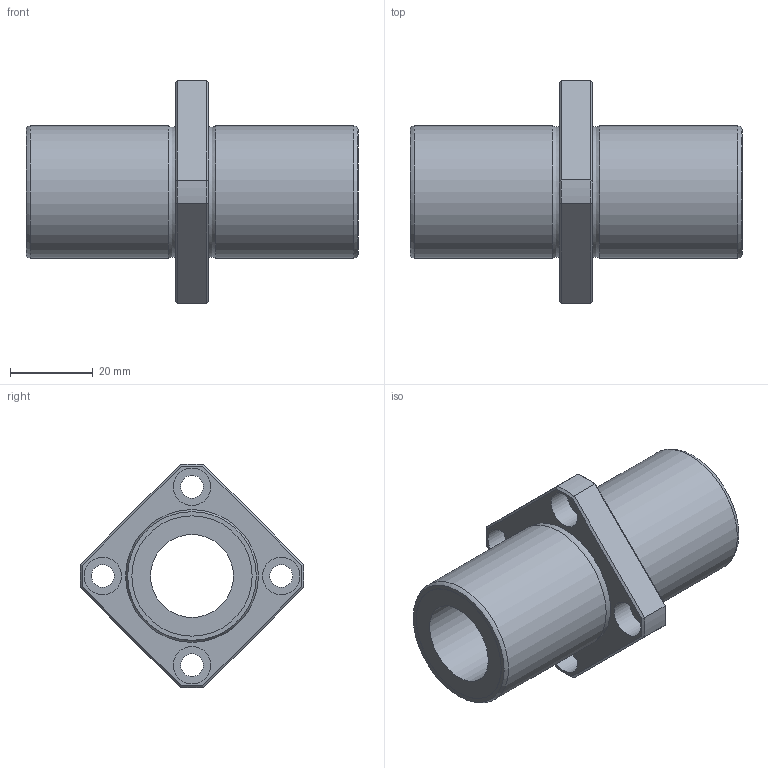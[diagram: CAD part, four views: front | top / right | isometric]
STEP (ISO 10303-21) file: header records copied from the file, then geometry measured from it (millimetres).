
FILE_DESCRIPTION((''),'2;1');
FILE_NAME('D:\製品 (図面)\カタログ用3D\リニアベアリング関連\STEP形式\LFDKC\LFDKC20.stp','2010-06-03T09:38:10',('Tsuchiya'),(''),'Autodesk Inventor 10','Autodesk Inventor 10','');
FILE_SCHEMA(('AUTOMOTIVE_DESIGN { 1 0 10303 214 1 1 1 1 }'));
Length unit declared in the file: millimetre
Products named in the file (1): LFDKC20
Bounding box: 80 x 53.97 x 53.97 mm (x, y, z)
Volume: 44782.6 mm3; surface area: 16867.9 mm2
Topology: 1 solids, 1 shells, 51 faces, 103 edges, 62 vertices
Faces by surface type: plane 22, cylinder 17, cone 8, torus 2, bspline 2
Full cylindrical faces by diameter (mm): 5.5 x4, 9 x4, 20 x1, 29 x2, 32 x2
Entity records: 1413 total; most frequent: CARTESIAN_POINT 372, DIRECTION 216, ORIENTED_EDGE 172, AXIS2_PLACEMENT_3D 96, EDGE_CURVE 86, EDGE_LOOP 86, VERTEX_POINT 62, FACE_OUTER_BOUND 51
